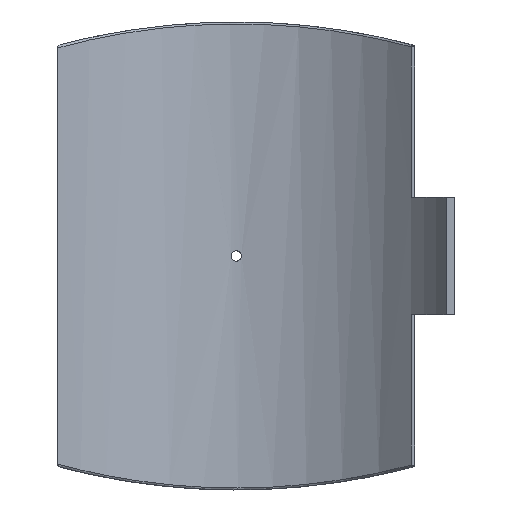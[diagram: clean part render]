
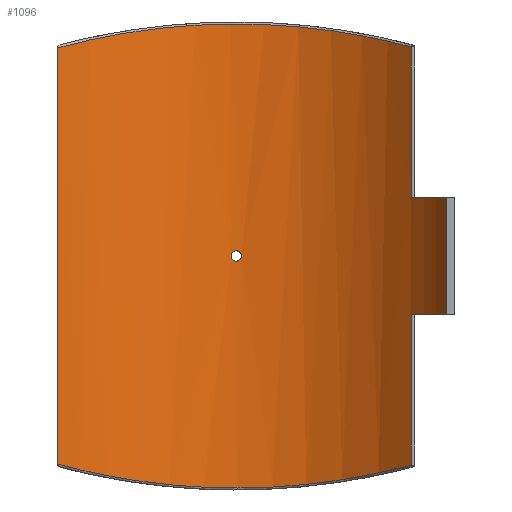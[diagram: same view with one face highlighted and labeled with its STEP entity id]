
A CAD part, front view. The second image highlights one B-rep face of the part: STEP entity #1096.
In plain terms, the highlighted cylindrical face has radius 250 mm (diameter 500 mm), a partial arc.
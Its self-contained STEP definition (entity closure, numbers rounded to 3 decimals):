
#55=FACE_BOUND('',#359,.T.);
#109=B_SPLINE_CURVE_WITH_KNOTS('',3,(#2237,#2238,#2239,#2240,#2241,#2242,
#2243,#2244,#2245,#2246),.UNSPECIFIED.,.F.,.F.,(4,1,1,1,1,1,1,4),(-46.128,
-40.399,-34.67,-28.941,-23.212,
-17.482,-11.753,-6.024),.UNSPECIFIED.);
#110=B_SPLINE_CURVE_WITH_KNOTS('',3,(#2255,#2256,#2257,#2258,#2259,#2260,
#2261,#2262,#2263,#2264),.UNSPECIFIED.,.F.,.F.,(4,1,1,1,1,1,1,4),(-43.719,
-37.99,-32.261,-26.532,-20.803,
-15.073,-9.344,-3.615),.UNSPECIFIED.);
#111=B_SPLINE_CURVE_WITH_KNOTS('',3,(#2267,#2268,#2269,#2270,#2271,#2272,
#2273,#2274,#2275,#2276),.UNSPECIFIED.,.F.,.F.,(4,2,2,2,4),(0.,0.196,
0.392,0.588,0.784),.UNSPECIFIED.);
#112=B_SPLINE_CURVE_WITH_KNOTS('',3,(#2277,#2278,#2279,#2280,#2281,#2282,
#2283,#2284,#2285,#2286,#2287,#2288,#2289,#2290,#2291,#2292,#2293,#2294,
#2295,#2296,#2297,#2298,#2299,#2300,#2301,#2302),.UNSPECIFIED.,.F.,.F.,
(4,2,2,2,2,2,2,2,2,2,2,2,4),(0.784,0.979,1.175,
1.371,1.567,1.763,1.959,2.155,
2.351,2.546,2.742,2.938,3.134),
 .UNSPECIFIED.);
#133=LINE('',#1644,#185);
#144=LINE('',#1928,#196);
#151=LINE('',#2251,#203);
#152=LINE('',#2254,#204);
#185=VECTOR('',#1314,10.);
#196=VECTOR('',#1353,10.);
#203=VECTOR('',#1390,10.);
#204=VECTOR('',#1393,10.);
#246=CYLINDRICAL_SURFACE('',#1194,250.);
#291=FACE_OUTER_BOUND('',#358,.T.);
#358=EDGE_LOOP('',(#851,#852,#853,#854,#855,#856,#857,#858));
#359=EDGE_LOOP('',(#859,#860));
#454=CIRCLE('',#1195,250.);
#455=CIRCLE('',#1196,250.);
#517=VERTEX_POINT('',#1635);
#520=VERTEX_POINT('',#1642);
#540=VERTEX_POINT('',#1921);
#543=VERTEX_POINT('',#1926);
#556=VERTEX_POINT('',#2220);
#557=VERTEX_POINT('',#2248);
#558=VERTEX_POINT('',#2250);
#559=VERTEX_POINT('',#2253);
#560=VERTEX_POINT('',#2265);
#561=VERTEX_POINT('',#2266);
#622=EDGE_CURVE('',#520,#517,#133,.T.);
#652=EDGE_CURVE('',#543,#540,#144,.T.);
#675=EDGE_CURVE('',#556,#543,#109,.T.);
#676=EDGE_CURVE('',#557,#520,#454,.T.);
#677=EDGE_CURVE('',#557,#558,#151,.T.);
#678=EDGE_CURVE('',#540,#558,#455,.T.);
#679=EDGE_CURVE('',#559,#556,#152,.T.);
#680=EDGE_CURVE('',#517,#559,#110,.T.);
#681=EDGE_CURVE('',#560,#561,#111,.T.);
#682=EDGE_CURVE('',#561,#560,#112,.T.);
#851=ORIENTED_EDGE('',*,*,#676,.F.);
#852=ORIENTED_EDGE('',*,*,#677,.T.);
#853=ORIENTED_EDGE('',*,*,#678,.F.);
#854=ORIENTED_EDGE('',*,*,#652,.F.);
#855=ORIENTED_EDGE('',*,*,#675,.F.);
#856=ORIENTED_EDGE('',*,*,#679,.F.);
#857=ORIENTED_EDGE('',*,*,#680,.F.);
#858=ORIENTED_EDGE('',*,*,#622,.F.);
#859=ORIENTED_EDGE('',*,*,#681,.T.);
#860=ORIENTED_EDGE('',*,*,#682,.T.);
#1096=ADVANCED_FACE('',(#291,#55),#246,.F.);
#1194=AXIS2_PLACEMENT_3D('',#2247,#1386,#1387);
#1195=AXIS2_PLACEMENT_3D('',#2249,#1388,#1389);
#1196=AXIS2_PLACEMENT_3D('',#2252,#1391,#1392);
#1314=DIRECTION('',(0.,0.,-1.));
#1353=DIRECTION('',(0.,0.,-1.));
#1386=DIRECTION('center_axis',(0.,0.,1.));
#1387=DIRECTION('ref_axis',(-1.,0.,0.));
#1388=DIRECTION('center_axis',(0.,0.,1.));
#1389=DIRECTION('ref_axis',(-0.843,-0.537,0.));
#1390=DIRECTION('',(0.,0.,1.));
#1391=DIRECTION('center_axis',(0.,0.,-1.));
#1392=DIRECTION('ref_axis',(-0.843,-0.537,0.));
#1393=DIRECTION('',(0.,0.,1.));
#1635=CARTESIAN_POINT('',(175.694,177.852,-209.962));
#1642=CARTESIAN_POINT('',(175.694,177.852,-58.75));
#1644=CARTESIAN_POINT('',(175.694,177.852,0.));
#1921=CARTESIAN_POINT('',(175.694,177.852,58.75));
#1926=CARTESIAN_POINT('',(175.694,177.852,209.962));
#1928=CARTESIAN_POINT('',(175.694,177.852,0.));
#2220=CARTESIAN_POINT('',(-179.1,174.422,209.044));
#2237=CARTESIAN_POINT('Ctrl Pts',(-179.1,174.422,209.044));
#2238=CARTESIAN_POINT('Ctrl Pts',(-166.11,187.761,212.582));
#2239=CARTESIAN_POINT('Ctrl Pts',(-137.142,211.533,219.638));
#2240=CARTESIAN_POINT('Ctrl Pts',(-86.534,236.822,228.199));
#2241=CARTESIAN_POINT('Ctrl Pts',(-31.093,250.24,233.084));
#2242=CARTESIAN_POINT('Ctrl Pts',(26.163,250.806,233.296));
#2243=CARTESIAN_POINT('Ctrl Pts',(81.889,238.469,228.786));
#2244=CARTESIAN_POINT('Ctrl Pts',(133.016,214.155,220.486));
#2245=CARTESIAN_POINT('Ctrl Pts',(162.449,190.937,213.496));
#2246=CARTESIAN_POINT('Ctrl Pts',(175.694,177.852,209.962));
#2247=CARTESIAN_POINT('Origin',(0.,0.,0.));
#2248=CARTESIAN_POINT('',(210.827,134.358,-58.75));
#2249=CARTESIAN_POINT('Origin',(0.,0.,
-58.75));
#2250=CARTESIAN_POINT('',(210.827,134.358,58.75));
#2251=CARTESIAN_POINT('',(210.827,134.358,0.));
#2252=CARTESIAN_POINT('Origin',(0.,0.,
58.75));
#2253=CARTESIAN_POINT('',(-179.1,174.422,-209.044));
#2254=CARTESIAN_POINT('',(-179.1,174.422,0.));
#2255=CARTESIAN_POINT('Ctrl Pts',(175.694,177.852,-209.962));
#2256=CARTESIAN_POINT('Ctrl Pts',(162.449,190.937,-213.496));
#2257=CARTESIAN_POINT('Ctrl Pts',(133.015,214.155,-220.486));
#2258=CARTESIAN_POINT('Ctrl Pts',(81.89,238.47,-228.787));
#2259=CARTESIAN_POINT('Ctrl Pts',(26.162,250.805,-233.295));
#2260=CARTESIAN_POINT('Ctrl Pts',(-31.093,250.241,-233.085));
#2261=CARTESIAN_POINT('Ctrl Pts',(-86.534,236.821,-228.198));
#2262=CARTESIAN_POINT('Ctrl Pts',(-137.142,211.533,-219.638));
#2263=CARTESIAN_POINT('Ctrl Pts',(-166.11,187.761,-212.582));
#2264=CARTESIAN_POINT('Ctrl Pts',(-179.1,174.422,-209.044));
#2265=CARTESIAN_POINT('',(5.2,249.946,0.));
#2266=CARTESIAN_POINT('',(0.,250.,-5.2));
#2267=CARTESIAN_POINT('Ctrl Pts',(5.2,249.946,0.));
#2268=CARTESIAN_POINT('Ctrl Pts',(5.2,249.946,-0.653));
#2269=CARTESIAN_POINT('Ctrl Pts',(5.07,249.949,-1.349));
#2270=CARTESIAN_POINT('Ctrl Pts',(4.539,249.959,-2.631));
#2271=CARTESIAN_POINT('Ctrl Pts',(4.139,249.966,-3.215));
#2272=CARTESIAN_POINT('Ctrl Pts',(3.215,249.98,-4.139));
#2273=CARTESIAN_POINT('Ctrl Pts',(2.631,249.987,-4.539));
#2274=CARTESIAN_POINT('Ctrl Pts',(1.349,249.997,-5.07));
#2275=CARTESIAN_POINT('Ctrl Pts',(0.653,250.,-5.2));
#2276=CARTESIAN_POINT('Ctrl Pts',(0.,250.,-5.2));
#2277=CARTESIAN_POINT('Ctrl Pts',(0.,250.,-5.2));
#2278=CARTESIAN_POINT('Ctrl Pts',(-0.653,250.,-5.2));
#2279=CARTESIAN_POINT('Ctrl Pts',(-1.349,249.997,-5.07));
#2280=CARTESIAN_POINT('Ctrl Pts',(-2.631,249.987,-4.539));
#2281=CARTESIAN_POINT('Ctrl Pts',(-3.215,249.98,-4.139));
#2282=CARTESIAN_POINT('Ctrl Pts',(-4.139,249.966,-3.215));
#2283=CARTESIAN_POINT('Ctrl Pts',(-4.539,249.959,-2.631));
#2284=CARTESIAN_POINT('Ctrl Pts',(-5.07,249.949,-1.349));
#2285=CARTESIAN_POINT('Ctrl Pts',(-5.2,249.946,-0.653));
#2286=CARTESIAN_POINT('Ctrl Pts',(-5.2,249.946,0.653));
#2287=CARTESIAN_POINT('Ctrl Pts',(-5.07,249.949,1.349));
#2288=CARTESIAN_POINT('Ctrl Pts',(-4.539,249.959,2.631));
#2289=CARTESIAN_POINT('Ctrl Pts',(-4.139,249.966,3.215));
#2290=CARTESIAN_POINT('Ctrl Pts',(-3.215,249.98,4.139));
#2291=CARTESIAN_POINT('Ctrl Pts',(-2.631,249.987,4.539));
#2292=CARTESIAN_POINT('Ctrl Pts',(-1.349,249.997,5.07));
#2293=CARTESIAN_POINT('Ctrl Pts',(-0.653,250.,5.2));
#2294=CARTESIAN_POINT('Ctrl Pts',(0.653,250.,5.2));
#2295=CARTESIAN_POINT('Ctrl Pts',(1.349,249.997,5.07));
#2296=CARTESIAN_POINT('Ctrl Pts',(2.631,249.987,4.539));
#2297=CARTESIAN_POINT('Ctrl Pts',(3.215,249.98,4.139));
#2298=CARTESIAN_POINT('Ctrl Pts',(4.139,249.966,3.215));
#2299=CARTESIAN_POINT('Ctrl Pts',(4.539,249.959,2.631));
#2300=CARTESIAN_POINT('Ctrl Pts',(5.07,249.949,1.349));
#2301=CARTESIAN_POINT('Ctrl Pts',(5.2,249.946,0.653));
#2302=CARTESIAN_POINT('Ctrl Pts',(5.2,249.946,0.));
